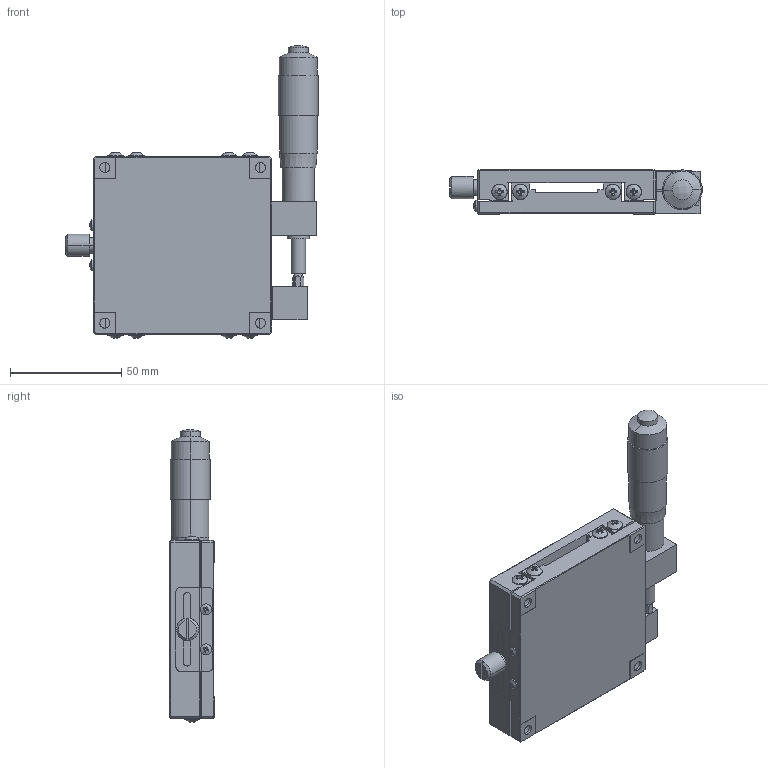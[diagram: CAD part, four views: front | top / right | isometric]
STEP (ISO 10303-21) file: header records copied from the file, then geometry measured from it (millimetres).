
FILE_DESCRIPTION (( 'STEP AP203' ), '1' );
FILE_NAME ('LX80-R.STEP', '2013-12-21T06:00:24', ( 'pengyu' ), ( '' ), 'SwSTEP 2.0', 'SolidWorks 2011', '' );
FILE_SCHEMA (( 'CONFIG_CONTROL_DESIGN' ));
Length unit declared in the file: millimetre
Products named in the file (4): LX80-R; MT25-3-1; L80R-2; L80R-1
Assembly tree (3 placements, depth 2):
  LX80-R
    MT25-3-1
    L80R-2
    L80R-1
Bounding box: 113.63 x 20 x 131.58 mm (x, y, z)
Volume: 128905.7 mm3; surface area: 51338.7 mm2
Topology: 3 solids, 11 shells, 636 faces, 1606 edges, 998 vertices
Faces by surface type: plane 371, cylinder 133, cone 90, bspline 42
Entity records: 20316 total; most frequent: CARTESIAN_POINT 4908, ORIENTED_EDGE 3132, DIRECTION 3110, EDGE_CURVE 1566, AXIS2_PLACEMENT_3D 1148, VERTEX_POINT 998, VECTOR 814, LINE 814
